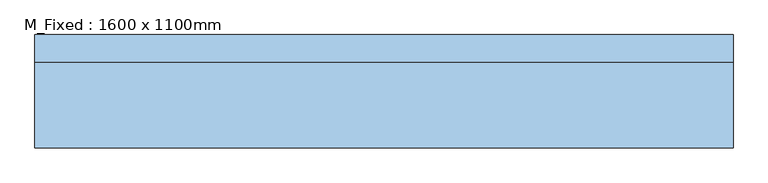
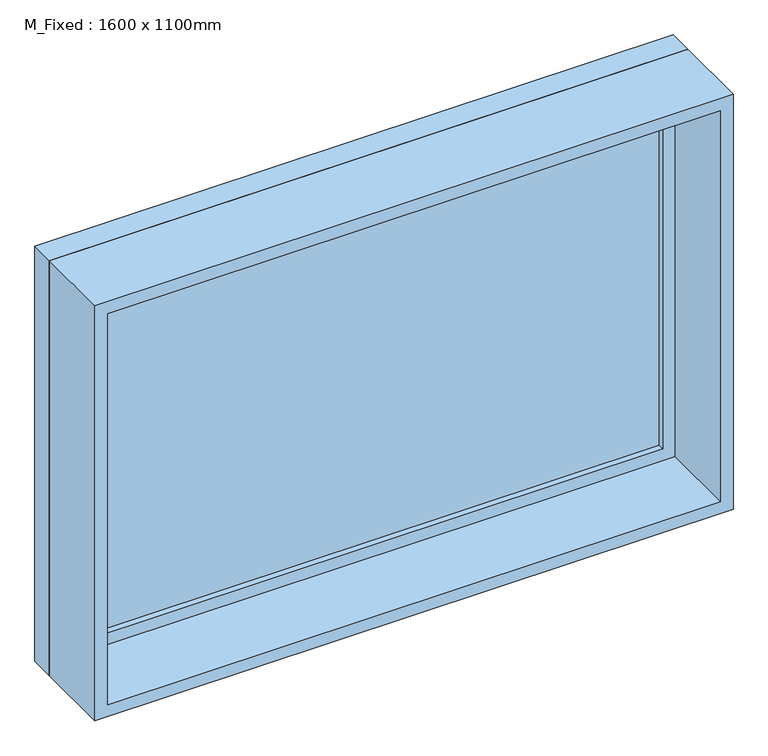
"""IFC4 building model written with IfcOpenShell, lengths in millimetres: window geometry, M_Fixed : 1600 x 1100mm."""

from ifc_helpers import new_model, si_unit, frame, origin, place, context, project, spatial, polyline, outline, extrude, source, transform, mapped, element, save


def m_fixed_1600_x_1100mm_008575aa(model_context):
    return source(origin(), model_context, "Body", "SweptSolid", [
        extrude(outline(polyline([(-737.0, 108.0), (737.0, 108.0), (737.0, 96.0), (-737.0, 96.0), (-737.0, 108.0)])), frame((0.0, 0.0, 978.0), z_axis=(0.0, 0.0, 1.0), x_axis=(1.0, 0.0, 0.0)), (0.0, 0.0, 1.0), 974.0),
        extrude(outline(polyline([(1996.0, -781.0), (934.0, -781.0), (934.0, 781.0), (1996.0, 781.0), (1996.0, -781.0)]), holes=[polyline([(1952.0, -737.0), (1952.0, 737.0), (978.0, 737.0), (978.0, -737.0), (1952.0, -737.0)])]), frame((0.0, 80.0, 0.0), z_axis=(0.0, 1.0, 0.0), x_axis=(0.0, 0.0, 1.0)), (0.0, 0.0, 1.0), 44.0),
        extrude(outline(polyline([(2015.0, -800.0), (915.0, -800.0), (915.0, 800.0), (2015.0, 800.0), (2015.0, -800.0)]), holes=[polyline([(1996.0, -781.0), (1996.0, 781.0), (934.0, 781.0), (934.0, -781.0), (1996.0, -781.0)])]), frame((0.0, 80.0, 0.0), z_axis=(0.0, 1.0, 0.0), x_axis=(0.0, 0.0, 1.0)), (0.0, 0.0, 1.0), 63.0),
        extrude(outline(polyline([(2015.0, -800.0), (915.0, -800.0), (915.0, 800.0), (2015.0, 800.0), (2015.0, -800.0)]), holes=[polyline([(1983.0, -768.0), (1983.0, 768.0), (947.0, 768.0), (947.0, -768.0), (1983.0, -768.0)])]), frame((0.0, -117.0, 0.0), z_axis=(0.0, 1.0, 0.0), x_axis=(0.0, 0.0, 1.0)), (0.0, 0.0, 1.0), 197.0),
    ])


if __name__ == "__main__":
    model = new_model("IFC4")
    model_context = context("Model", 3, world=origin())
    ifc_project = project(units=[si_unit("LENGTHUNIT", "METRE", prefix="MILLI")], contexts=[model_context])
    site = spatial("IfcSite", under=ifc_project)
    building = spatial("IfcBuilding", under=site)
    placement = place(None, origin())
    m_fixed_1600_x_1100mm_shape = m_fixed_1600_x_1100mm_008575aa(model_context)
    element("IfcWindow", 1, ObjectType="M_Fixed : 1600 x 1100mm", at=placement, inside=building, context=model_context, shape_type="MappedRepresentation", body=[
        mapped(m_fixed_1600_x_1100mm_shape, transform((0.0, 0.0, 0.0), x_axis=(1.0, 0.0, 0.0), y_axis=(0.0, 1.0, 0.0), z_axis=(0.0, 0.0, 1.0))),
    ])
    save(model, "model.ifc")
